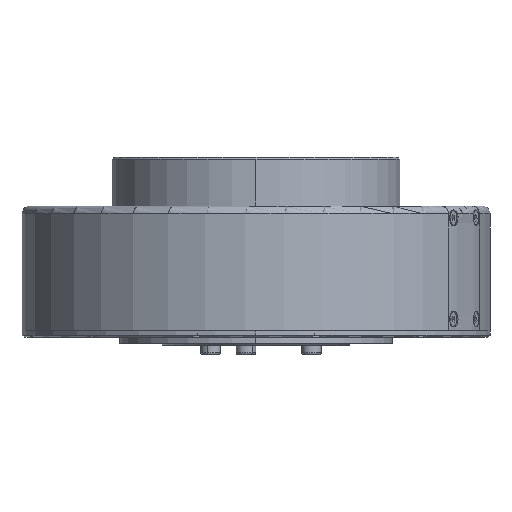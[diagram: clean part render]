
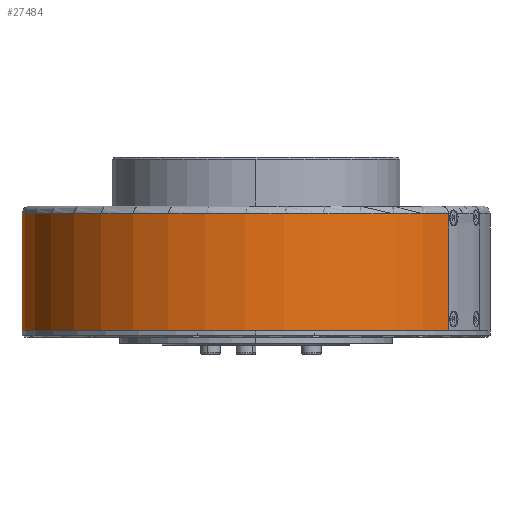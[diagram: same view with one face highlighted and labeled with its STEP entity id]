
A CAD part, left-side view. The second image highlights one B-rep face of the part: STEP entity #27484.
In plain terms, the highlighted cylindrical face has radius 60 mm (diameter 120 mm), a partial arc.
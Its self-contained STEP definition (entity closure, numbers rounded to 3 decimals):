
#3916 = VERTEX_POINT ( 'NONE', #45666 ) ;
#4653 = EDGE_CURVE ( 'NONE', #42406, #54624, #40592, .T. ) ;
#9573 = EDGE_CURVE ( 'NONE', #61251, #54624, #100677, .T. ) ;
#11302 = CARTESIAN_POINT ( 'NONE',  ( -34.094, -49.372, -2.7 ) ) ;
#13605 = CARTESIAN_POINT ( 'NONE',  ( -34.094, -49.372, 27.3 ) ) ;
#13870 = AXIS2_PLACEMENT_3D ( 'NONE', #71271, #21917, #55342 ) ;
#14328 = AXIS2_PLACEMENT_3D ( 'NONE', #60597, #52366, #78627 ) ;
#20023 = CYLINDRICAL_SURFACE ( 'NONE', #14328, 60. ) ;
#21917 = DIRECTION ( 'NONE',  ( 0., 0., -1. ) ) ;
#22627 = CIRCLE ( 'NONE', #13870, 60. ) ;
#22628 = EDGE_LOOP ( 'NONE', ( #53431, #47570, #58648, #107491 ) ) ;
#23767 = AXIS2_PLACEMENT_3D ( 'NONE', #75730, #40738, #34627 ) ;
#27484 = ADVANCED_FACE ( 'NONE', ( #79187 ), #20023, .T. ) ;
#34627 = DIRECTION ( 'NONE',  ( 0., -1., 0. ) ) ;
#37253 = EDGE_CURVE ( 'NONE', #61251, #3916, #99635, .T. ) ;
#40592 = LINE ( 'NONE', #99074, #47689 ) ;
#40626 = CARTESIAN_POINT ( 'NONE',  ( 0., 60., -2.7 ) ) ;
#40738 = DIRECTION ( 'NONE',  ( 0., 0., 1. ) ) ;
#42406 = VERTEX_POINT ( 'NONE', #13605 ) ;
#45666 = CARTESIAN_POINT ( 'NONE',  ( 0., 60., 27.3 ) ) ;
#47570 = ORIENTED_EDGE ( 'NONE', *, *, #9573, .T. ) ;
#47689 = VECTOR ( 'NONE', #68316, 1000. ) ;
#48149 = CARTESIAN_POINT ( 'NONE',  ( 0., 60., -2.7 ) ) ;
#48968 = EDGE_CURVE ( 'NONE', #42406, #3916, #22627, .T. ) ;
#52366 = DIRECTION ( 'NONE',  ( 0., 0., 1. ) ) ;
#53431 = ORIENTED_EDGE ( 'NONE', *, *, #37253, .F. ) ;
#54624 = VERTEX_POINT ( 'NONE', #11302 ) ;
#55342 = DIRECTION ( 'NONE',  ( 0., 1., 0. ) ) ;
#58648 = ORIENTED_EDGE ( 'NONE', *, *, #4653, .F. ) ;
#60597 = CARTESIAN_POINT ( 'NONE',  ( 0., 0., -2.7 ) ) ;
#61251 = VERTEX_POINT ( 'NONE', #48149 ) ;
#68316 = DIRECTION ( 'NONE',  ( 0., 0., -1. ) ) ;
#71271 = CARTESIAN_POINT ( 'NONE',  ( 0., 0., 27.3 ) ) ;
#75730 = CARTESIAN_POINT ( 'NONE',  ( 0., 0., -2.7 ) ) ;
#78627 = DIRECTION ( 'NONE',  ( 0., -1., 0. ) ) ;
#79187 = FACE_OUTER_BOUND ( 'NONE', #22628, .T. ) ;
#82200 = DIRECTION ( 'NONE',  ( 0., 0., 1. ) ) ;
#99074 = CARTESIAN_POINT ( 'NONE',  ( -34.094, -49.372, -2.7 ) ) ;
#99635 = LINE ( 'NONE', #40626, #103346 ) ;
#100677 = CIRCLE ( 'NONE', #23767, 60. ) ;
#103346 = VECTOR ( 'NONE', #82200, 1000. ) ;
#107491 = ORIENTED_EDGE ( 'NONE', *, *, #48968, .T. ) ;
